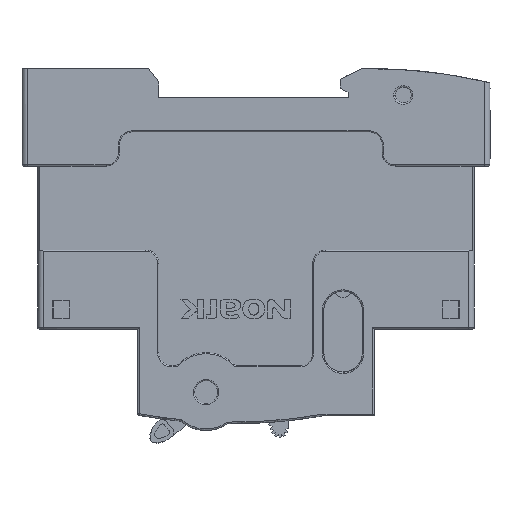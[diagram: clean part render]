
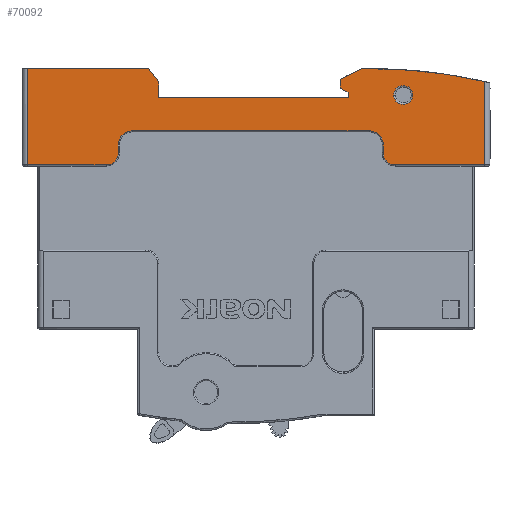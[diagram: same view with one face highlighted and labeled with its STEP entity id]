
A CAD part, front view. The second image highlights one B-rep face of the part: STEP entity #70092.
In plain terms, the highlighted planar face has unit normal (0, 1, 0).
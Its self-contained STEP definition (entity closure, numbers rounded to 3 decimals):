
#34934=DIRECTION('',(1.,0.,0.));
#34935=VECTOR('',#34934,15.);
#34936=CARTESIAN_POINT('',(-43.5,0.,31.2));
#34937=LINE('',#34936,#34935);
#35285=DIRECTION('',(1.,0.,0.));
#35286=VECTOR('',#35285,45.);
#35287=CARTESIAN_POINT('',(-23.5,0.,
37.7));
#35288=LINE('',#35287,#35286);
#35299=CARTESIAN_POINT('',(21.5,0.,35.));
#35300=DIRECTION('',(0.,-1.,0.));
#35301=DIRECTION('',(1.,0.,0.));
#35302=AXIS2_PLACEMENT_3D('',#35299,#35300,#35301);
#35307=CARTESIAN_POINT('',(26.5,0.,33.5));
#35308=DIRECTION('',(0.,1.,0.));
#35309=DIRECTION('',(0.,0.,-1.));
#35310=AXIS2_PLACEMENT_3D('',#35307,#35308,#35309);
#35315=CARTESIAN_POINT('',(22.,0.,-46.5));
#35316=DIRECTION('',(0.,1.,0.));
#35317=DIRECTION('',(0.,0.,1.));
#35318=AXIS2_PLACEMENT_3D('',#35315,#35316,#35317);
#35323=DIRECTION('',(0.894,0.,0.447));
#35324=VECTOR('',#35323,4.472);
#35325=CARTESIAN_POINT('',(16.,0.,47.5));
#35326=LINE('',#35325,#35324);
#35330=DIRECTION('',(-0.882,0.,0.471));
#35331=VECTOR('',#35330,1.7);
#35332=CARTESIAN_POINT('',(17.5,0.,45.));
#35333=LINE('',#35332,#35331);
#35337=DIRECTION('',(0.625,0.,-0.781));
#35338=VECTOR('',#35337,3.202);
#35339=CARTESIAN_POINT('',(-20.5,0.,49.5));
#35340=LINE('',#35339,#35338);
#35344=CARTESIAN_POINT('',(-28.5,0.,33.5));
#35345=DIRECTION('',(0.,1.,0.));
#35346=DIRECTION('',(1.,0.,0.));
#35347=AXIS2_PLACEMENT_3D('',#35344,#35345,#35346);
#35352=CARTESIAN_POINT('',(-23.5,0.,35.));
#35353=DIRECTION('',(0.,-1.,0.));
#35354=DIRECTION('',(0.,0.,1.));
#35355=AXIS2_PLACEMENT_3D('',#35352,#35353,#35354);
#35360=CARTESIAN_POINT('',(28.,0.,44.5));
#35361=DIRECTION('',(0.,-1.,0.));
#35362=DIRECTION('',(1.,0.,0.));
#35363=AXIS2_PLACEMENT_3D('',#35360,#35361,#35362);
#35368=CARTESIAN_POINT('',(28.,0.,44.5));
#35369=DIRECTION('',(0.,-1.,0.));
#35370=DIRECTION('',(-0.986,0.,-0.166));
#35371=AXIS2_PLACEMENT_3D('',#35368,#35369,#35370);
#35376=CARTESIAN_POINT('',(28.,0.,44.5));
#35377=DIRECTION('',(0.,-1.,0.));
#35378=DIRECTION('',(-1.,0.,0.));
#35379=AXIS2_PLACEMENT_3D('',#35376,#35377,#35378);
#35384=CARTESIAN_POINT('',(28.,0.,44.5));
#35385=DIRECTION('',(0.,-1.,0.));
#35386=DIRECTION('',(0.986,0.,0.166));
#35387=AXIS2_PLACEMENT_3D('',#35384,#35385,#35386);
#35408=DIRECTION('',(0.,0.,-1.));
#35409=VECTOR('',#35408,1.5);
#35410=CARTESIAN_POINT('',(24.2,0.,
35.));
#35411=LINE('',#35410,#35409);
#35438=DIRECTION('',(1.,0.,0.));
#35439=VECTOR('',#35438,17.);
#35440=CARTESIAN_POINT('',(26.5,0.,
31.2));
#35441=LINE('',#35440,#35439);
#37527=DIRECTION('',(0.,0.,-1.));
#37528=VECTOR('',#37527,18.3);
#37529=CARTESIAN_POINT('',(-43.5,0.,49.5));
#37530=LINE('',#37529,#37528);
#37648=DIRECTION('',(1.,0.,0.));
#37649=VECTOR('',#37648,23.);
#37650=CARTESIAN_POINT('',(-43.5,0.,49.5));
#37651=LINE('',#37650,#37649);
#37676=DIRECTION('',(0.,0.,1.));
#37677=VECTOR('',#37676,3.);
#37678=CARTESIAN_POINT('',(-18.5,0.,44.));
#37679=LINE('',#37678,#37677);
#37697=DIRECTION('',(-1.,0.,0.));
#37698=VECTOR('',#37697,36.);
#37699=CARTESIAN_POINT('',(17.5,0.,44.));
#37700=LINE('',#37699,#37698);
#37732=DIRECTION('',(0.,0.,-1.));
#37733=VECTOR('',#37732,1.);
#37734=CARTESIAN_POINT('',(17.5,0.,45.));
#37735=LINE('',#37734,#37733);
#37781=DIRECTION('',(0.,0.,-1.));
#37782=VECTOR('',#37781,1.7);
#37783=CARTESIAN_POINT('',(16.,0.,47.5));
#37784=LINE('',#37783,#37782);
#37809=DIRECTION('',(1.,0.,0.));
#37810=VECTOR('',#37809,2.);
#37811=CARTESIAN_POINT('',(20.,0.,49.5));
#37812=LINE('',#37811,#37810);
#37864=DIRECTION('',(0.,0.,1.));
#37865=VECTOR('',#37864,15.861);
#37866=CARTESIAN_POINT('',(43.5,0.,
31.2));
#37867=LINE('',#37866,#37865);
#50086=DIRECTION('',(0.,0.,1.));
#50087=VECTOR('',#50086,1.5);
#50088=CARTESIAN_POINT('',(-26.2,0.,
33.5));
#50089=LINE('',#50088,#50087);
#59112=CARTESIAN_POINT('',(43.5,0.,31.2));
#59114=VERTEX_POINT('',#59112);
#59116=CARTESIAN_POINT('',(43.5,0.,47.061));
#59117=VERTEX_POINT('',#59116);
#59680=CARTESIAN_POINT('',(22.,0.,49.5));
#59681=VERTEX_POINT('',#59680);
#59684=CARTESIAN_POINT('',(-23.5,0.,
37.7));
#59685=CARTESIAN_POINT('',(21.5,0.,
37.7));
#59686=VERTEX_POINT('',#59684);
#59687=VERTEX_POINT('',#59685);
#59688=CARTESIAN_POINT('',(24.2,0.,
35.));
#59689=VERTEX_POINT('',#59688);
#59690=CARTESIAN_POINT('',(24.2,0.,
33.5));
#59691=VERTEX_POINT('',#59690);
#59692=CARTESIAN_POINT('',(26.5,0.,
31.2));
#59693=VERTEX_POINT('',#59692);
#59694=CARTESIAN_POINT('',(20.,0.,49.5));
#59695=VERTEX_POINT('',#59694);
#59696=CARTESIAN_POINT('',(16.,0.,47.5));
#59697=VERTEX_POINT('',#59696);
#59698=CARTESIAN_POINT('',(16.,0.,45.8));
#59699=VERTEX_POINT('',#59698);
#59700=CARTESIAN_POINT('',(17.5,0.,45.));
#59701=VERTEX_POINT('',#59700);
#59702=CARTESIAN_POINT('',(17.5,0.,44.));
#59703=VERTEX_POINT('',#59702);
#59704=CARTESIAN_POINT('',(-18.5,0.,44.));
#59705=VERTEX_POINT('',#59704);
#59706=CARTESIAN_POINT('',(-18.5,0.,47.));
#59707=VERTEX_POINT('',#59706);
#59708=CARTESIAN_POINT('',(-20.5,0.,49.5));
#59709=VERTEX_POINT('',#59708);
#59710=CARTESIAN_POINT('',(-43.5,0.,49.5));
#59711=VERTEX_POINT('',#59710);
#59712=CARTESIAN_POINT('',(-43.5,0.,31.2));
#59713=VERTEX_POINT('',#59712);
#59714=CARTESIAN_POINT('',(-28.5,0.,
31.2));
#59715=VERTEX_POINT('',#59714);
#59716=CARTESIAN_POINT('',(-26.2,0.,
33.5));
#59717=VERTEX_POINT('',#59716);
#59718=CARTESIAN_POINT('',(-26.2,0.,
35.));
#59719=VERTEX_POINT('',#59718);
#59720=CARTESIAN_POINT('',(29.8,0.,44.5));
#59721=CARTESIAN_POINT('',(29.775,0.,
44.8));
#59722=VERTEX_POINT('',#59720);
#59723=VERTEX_POINT('',#59721);
#59724=CARTESIAN_POINT('',(26.225,0.,
44.2));
#59725=VERTEX_POINT('',#59724);
#59726=CARTESIAN_POINT('',(26.2,0.,44.5));
#59727=VERTEX_POINT('',#59726);
#70035=CARTESIAN_POINT('',(0.,0.,40.35));
#70036=DIRECTION('',(0.,1.,0.));
#70037=DIRECTION('',(1.,0.,0.));
#70038=AXIS2_PLACEMENT_3D('',#70035,#70036,#70037);
#70039=PLANE('',#70038);
#70040=ORIENTED_EDGE('',*,*,#70025,.T.);
#70042=ORIENTED_EDGE('',*,*,#70041,.F.);
#70044=ORIENTED_EDGE('',*,*,#70043,.T.);
#70046=ORIENTED_EDGE('',*,*,#70045,.F.);
#70048=ORIENTED_EDGE('',*,*,#70047,.T.);
#70050=ORIENTED_EDGE('',*,*,#70049,.T.);
#70052=ORIENTED_EDGE('',*,*,#70051,.F.);
#70054=ORIENTED_EDGE('',*,*,#70053,.F.);
#70056=ORIENTED_EDGE('',*,*,#70055,.F.);
#70058=ORIENTED_EDGE('',*,*,#70057,.T.);
#70060=ORIENTED_EDGE('',*,*,#70059,.F.);
#70062=ORIENTED_EDGE('',*,*,#70061,.T.);
#70064=ORIENTED_EDGE('',*,*,#70063,.T.);
#70066=ORIENTED_EDGE('',*,*,#70065,.T.);
#70068=ORIENTED_EDGE('',*,*,#70067,.F.);
#70070=ORIENTED_EDGE('',*,*,#70069,.F.);
#70072=ORIENTED_EDGE('',*,*,#70071,.T.);
#70073=ORIENTED_EDGE('',*,*,#69867,.T.);
#70075=ORIENTED_EDGE('',*,*,#70074,.F.);
#70077=ORIENTED_EDGE('',*,*,#70076,.T.);
#70079=ORIENTED_EDGE('',*,*,#70078,.F.);
#70080=EDGE_LOOP('',(#70040,#70042,#70044,#70046,#70048,#70050,#70052,#70054,
#70056,#70058,#70060,#70062,#70064,#70066,#70068,#70070,#70072,#70073,#70075,
#70077,#70079));
#70081=FACE_OUTER_BOUND('',#70080,.F.);
#70083=ORIENTED_EDGE('',*,*,#70082,.F.);
#70085=ORIENTED_EDGE('',*,*,#70084,.F.);
#70087=ORIENTED_EDGE('',*,*,#70086,.F.);
#70089=ORIENTED_EDGE('',*,*,#70088,.F.);
#70090=EDGE_LOOP('',(#70083,#70085,#70087,#70089));
#70091=FACE_BOUND('',#70090,.F.);
#70092=ADVANCED_FACE('',(#70081,#70091),#70039,.T.);
#35303=CIRCLE('',#35302,2.7);
#35311=CIRCLE('',#35310,2.3);
#35319=CIRCLE('',#35318,96.);
#35348=CIRCLE('',#35347,2.3);
#35356=CIRCLE('',#35355,2.7);
#35364=CIRCLE('',#35363,1.8);
#35372=CIRCLE('',#35371,1.8);
#35380=CIRCLE('',#35379,1.8);
#35388=CIRCLE('',#35387,1.8);
#69867=EDGE_CURVE('',#59713,#59715,#34937,.T.);
#70025=EDGE_CURVE('',#59686,#59687,#35288,.T.);
#70041=EDGE_CURVE('',#59689,#59687,#35303,.T.);
#70043=EDGE_CURVE('',#59689,#59691,#35411,.T.);
#70045=EDGE_CURVE('',#59693,#59691,#35311,.T.);
#70047=EDGE_CURVE('',#59693,#59114,#35441,.T.);
#70049=EDGE_CURVE('',#59114,#59117,#37867,.T.);
#70051=EDGE_CURVE('',#59681,#59117,#35319,.T.);
#70053=EDGE_CURVE('',#59695,#59681,#37812,.T.);
#70055=EDGE_CURVE('',#59697,#59695,#35326,.T.);
#70057=EDGE_CURVE('',#59697,#59699,#37784,.T.);
#70059=EDGE_CURVE('',#59701,#59699,#35333,.T.);
#70061=EDGE_CURVE('',#59701,#59703,#37735,.T.);
#70063=EDGE_CURVE('',#59703,#59705,#37700,.T.);
#70065=EDGE_CURVE('',#59705,#59707,#37679,.T.);
#70067=EDGE_CURVE('',#59709,#59707,#35340,.T.);
#70069=EDGE_CURVE('',#59711,#59709,#37651,.T.);
#70071=EDGE_CURVE('',#59711,#59713,#37530,.T.);
#70074=EDGE_CURVE('',#59717,#59715,#35348,.T.);
#70076=EDGE_CURVE('',#59717,#59719,#50089,.T.);
#70078=EDGE_CURVE('',#59686,#59719,#35356,.T.);
#70082=EDGE_CURVE('',#59722,#59723,#35364,.T.);
#70084=EDGE_CURVE('',#59725,#59722,#35372,.T.);
#70086=EDGE_CURVE('',#59727,#59725,#35380,.T.);
#70088=EDGE_CURVE('',#59723,#59727,#35388,.T.);
